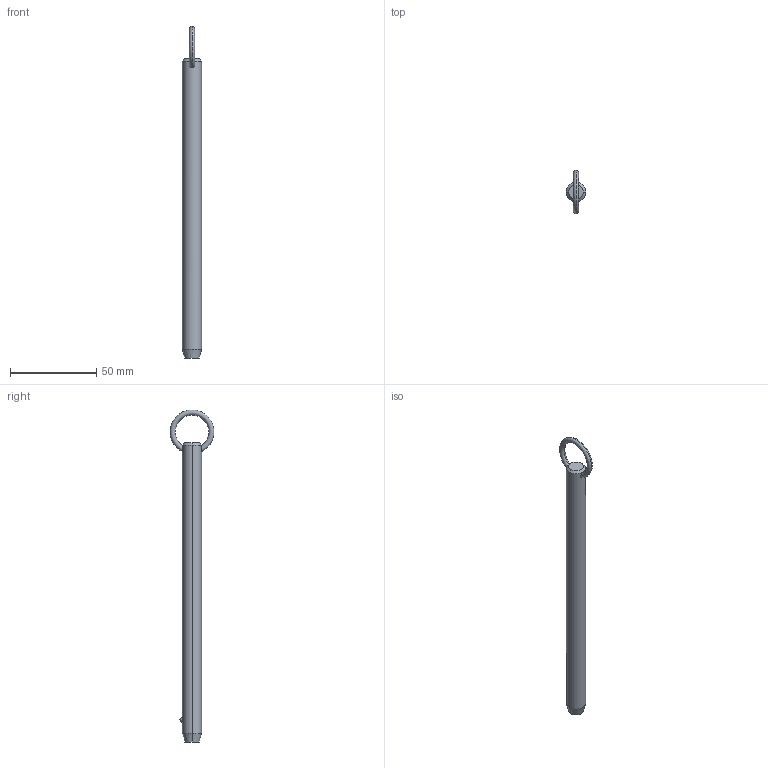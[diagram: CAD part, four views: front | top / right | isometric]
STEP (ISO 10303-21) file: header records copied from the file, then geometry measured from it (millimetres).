
FILE_DESCRIPTION (( 'STEP AP203' ), '1' );
FILE_NAME ('P1250.050-600.step', '2019-07-29T20:40:58', ( '' ), ( '' ), 'SwSTEP 2.0', 'SolidWorks 2017', '' );
FILE_SCHEMA (( 'CONFIG_CONTROL_DESIGN' ));
Length unit declared in the file: millimetre
Products named in the file (1): P1250.050-600
Bounding box: 11.1 x 25.32 x 191.95 mm (x, y, z)
Volume: 17023.7 mm3; surface area: 6685.4 mm2
Topology: 1 solids, 1 shells, 12 faces, 28 edges, 17 vertices
Faces by surface type: cone 4, torus 2, sphere 2, cylinder 2, plane 2
Entity records: 523 total; most frequent: CARTESIAN_POINT 190, DIRECTION 56, ORIENTED_EDGE 48, AXIS2_PLACEMENT_3D 25, EDGE_CURVE 24, EDGE_LOOP 15, VERTEX_POINT 15, CIRCLE 12
